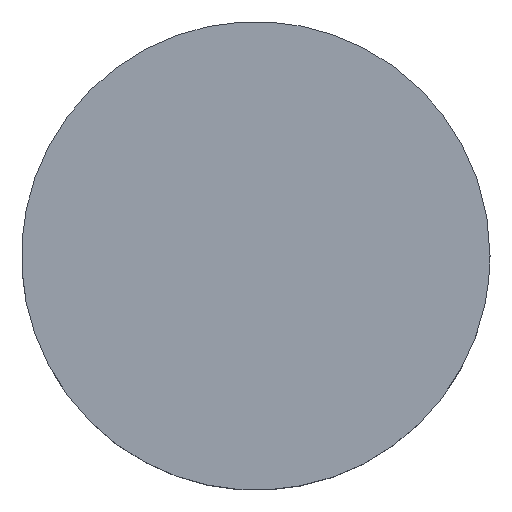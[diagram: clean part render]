
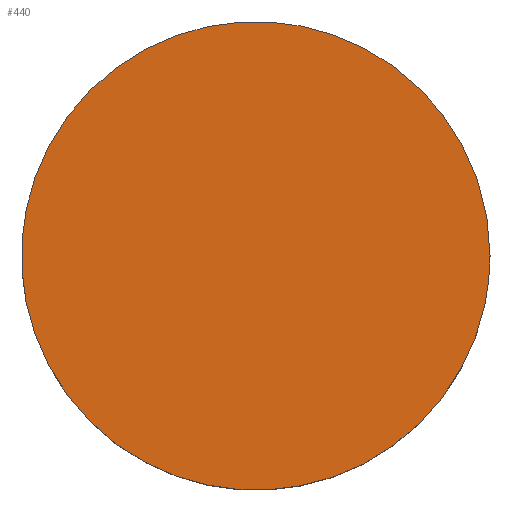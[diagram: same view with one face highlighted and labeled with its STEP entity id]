
A CAD part, top view. The second image highlights one B-rep face of the part: STEP entity #440.
In plain terms, the highlighted planar face has unit normal (0, 0, 1).
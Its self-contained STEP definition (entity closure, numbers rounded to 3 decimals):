
#230 = CARTESIAN_POINT ('', (2., 0., -63.9));
#240 = VERTEX_POINT ('', #230);
#250 = CARTESIAN_POINT ('', (2., 0., -63.9));
#260 = CARTESIAN_POINT ('', (2., 2., -63.9));
#270 = CARTESIAN_POINT ('', (0., 2., -63.9));
#280 = CARTESIAN_POINT ('', (-2., 2., -63.9));
#290 = CARTESIAN_POINT ('', (-2., 0., -63.9));
#300 = CARTESIAN_POINT ('', (-2., -2., -63.9));
#310 = CARTESIAN_POINT ('', (0., -2., -63.9));
#320 = CARTESIAN_POINT ('', (2., -2., -63.9));
#330 = CARTESIAN_POINT ('', (2., 0., -63.9));
#340 = (
   BOUNDED_CURVE ()
   B_SPLINE_CURVE (2, (#250, #260, #270, #280, #290, #300, #310, #320, #330), .UNSPECIFIED., .T., .U.)
   B_SPLINE_CURVE_WITH_KNOTS ((3, 2, 2, 2, 3), (0., 1.571, 3.142, 4.712, 6.283), .UNSPECIFIED.)
   CURVE ()
   GEOMETRIC_REPRESENTATION_ITEM ()
   RATIONAL_B_SPLINE_CURVE ((1., 0.707, 1., 0.707, 1., 0.707, 1., 0.707, 1.))
   REPRESENTATION_ITEM ('')
);
#350 = EDGE_CURVE ('', #240, #240, #340, .T.);
#360 = ORIENTED_EDGE ('', *, *, #350, .T.);
#370 = EDGE_LOOP ('', (#360));
#380 = FACE_OUTER_BOUND ('', #370, .T.);
#390 = CARTESIAN_POINT ('', (0., 4.284, -63.9));
#400 = DIRECTION ('', (0., 0., 1.));
#410 = DIRECTION ('', (-0.707, -0.707, 0.));
#420 = AXIS2_PLACEMENT_3D ('', #390, #400, #410);
#430 = PLANE ('', #420);
#440 = ADVANCED_FACE ('', (#380), #430, .T.);
